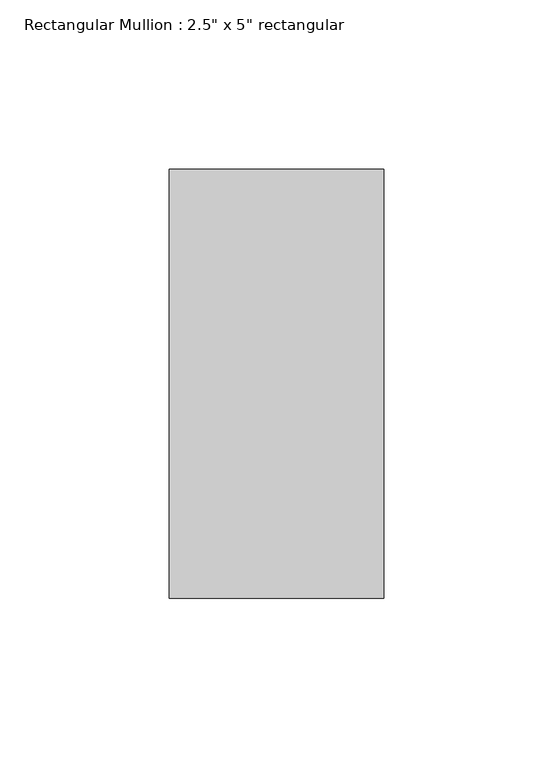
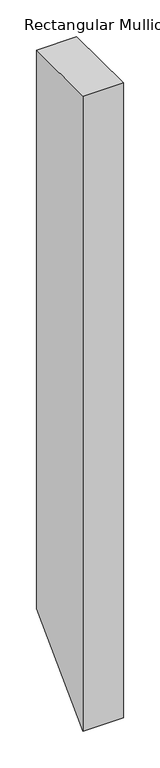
"""IFC4 building model written with IfcOpenShell, lengths in millimetres: member geometry."""

from ifc_helpers import new_model, si_unit, frame, origin, place, context, project, spatial, polyline, outline, extrude, source, transform, mapped, element, save


def member_d7aab7e8(model_context):
    return source(origin(), model_context, "Body", "SweptSolid", [
        extrude(outline(polyline([(-76.2, 0.0), (50.8, 0.0), (50.8, -930.275), (-76.2, -1057.275), (-76.2, 0.0)])), frame((-63.5, 0.0, 0.0), z_axis=(1.0, 0.0, 0.0), x_axis=(0.0, 1.0, 0.0)), (0.0, 0.0, 1.0), 63.5),
    ])


if __name__ == "__main__":
    model = new_model("IFC4")
    model_context = context("Model", 3, world=origin())
    ifc_project = project(units=[si_unit("LENGTHUNIT", "METRE", prefix="MILLI")], contexts=[model_context])
    site = spatial("IfcSite", under=ifc_project)
    building = spatial("IfcBuilding", under=site)
    placement = place(None, origin())
    member_shape = member_d7aab7e8(model_context)
    element("IfcMember", 1, ObjectType="Rectangular Mullion : 2.5\" x 5\" rectangular", at=placement, inside=building, context=model_context, shape_type="MappedRepresentation", body=[
        mapped(member_shape, transform((0.0, 0.0, 0.0), x_axis=(1.0, 0.0, 0.0), y_axis=(0.0, 1.0, 0.0), z_axis=(0.0, 0.0, 1.0))),
    ])
    save(model, "model.ifc")
